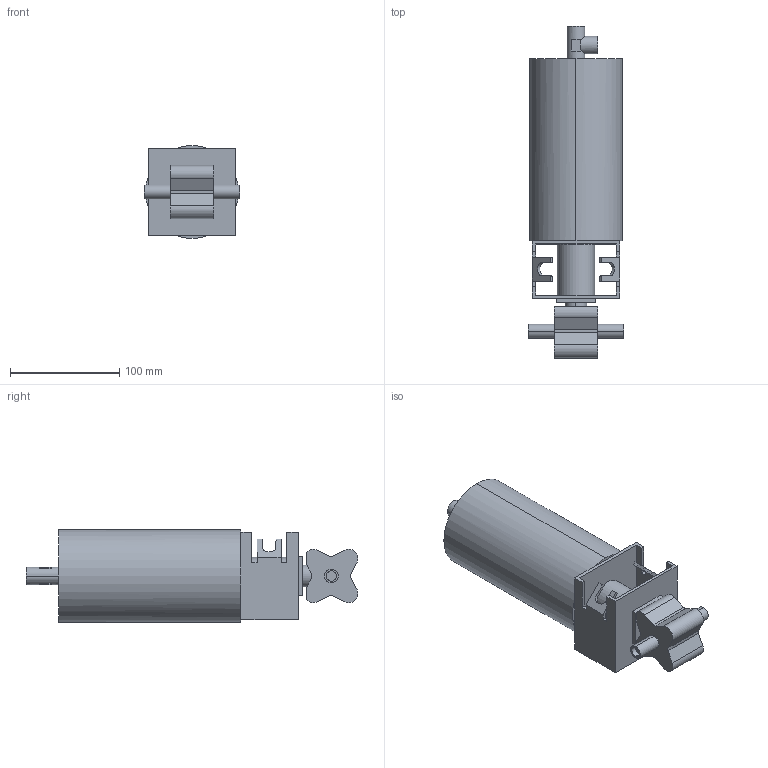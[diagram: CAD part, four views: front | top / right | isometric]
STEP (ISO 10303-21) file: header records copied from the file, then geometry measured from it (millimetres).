
FILE_DESCRIPTION(('Creo Elements/Direct Modeling STEP Export'),'2;1');
FILE_NAME('BLV1-0.5T-NC-12S.stp','2019-05-10T 7:42:48',(''),(''),'Creo Elements/Direct Modeling STEP processor for AP214 (Solid Model)','Creo Elements/Direct Modeling 19.0F 14-Feb-2017 (C) Parametric Technology GmbH','');
FILE_SCHEMA(('AUTOMOTIVE_DESIGN { 1 0 10303 214 1 1 1 1 }'));
Length unit declared in the file: millimetre
Products named in the file (2): BLV1-0.5T-NC-12S
Assembly tree (1 placements, depth 2):
  BLV1-0.5T-NC-12S
    BLV1-0.5T-NC-12S
Bounding box: 88 x 304.46 x 85 mm (x, y, z)
Volume: 1144615.4 mm3; surface area: 105363.8 mm2
Topology: 1 solids, 1 shells, 111 faces, 293 edges, 190 vertices
Faces by surface type: plane 82, cylinder 29
Entity records: 3160 total; most frequent: ORIENTED_EDGE 586, CARTESIAN_POINT 550, DIRECTION 475, EDGE_CURVE 293, VECTOR 193, LINE 193, VERTEX_POINT 190, AXIS2_PLACEMENT_3D 141
